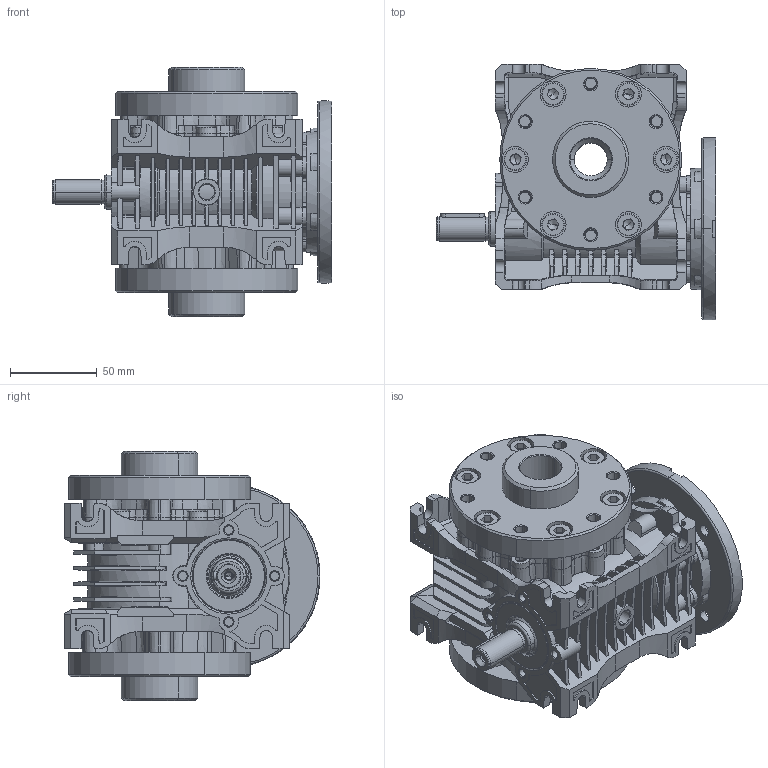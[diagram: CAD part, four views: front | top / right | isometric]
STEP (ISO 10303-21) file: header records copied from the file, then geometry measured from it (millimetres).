
FILE_DESCRIPTION (( 'STEP AP203' ), '1' );
FILE_NAME ('MRP-40_105_14-WBS_SP_3D.STEP', '2024-10-25T05:47:50', ( '' ), ( '' ), 'SwSTEP 2.0', 'SolidWorks 2022', '' );
FILE_SCHEMA (( 'CONFIG_CONTROL_DESIGN' ));
Length unit declared in the file: millimetre
Products named in the file (1): MRP-40_105_14-WBS_SP_3D
Bounding box: 161 x 147.52 x 144 mm (x, y, z)
Volume: 1010935.3 mm3; surface area: 229886.3 mm2
Topology: 1 solids, 61 shells, 2958 faces, 7618 edges, 4830 vertices
Faces by surface type: plane 1164, cone 877, cylinder 511, bspline 216, torus 154, sphere 36
Entity records: 98025 total; most frequent: CARTESIAN_POINT 27875, ORIENTED_EDGE 15116, DIRECTION 14385, EDGE_CURVE 7558, AXIS2_PLACEMENT_3D 5491, VERTEX_POINT 4830, LINE 3403, VECTOR 3403
